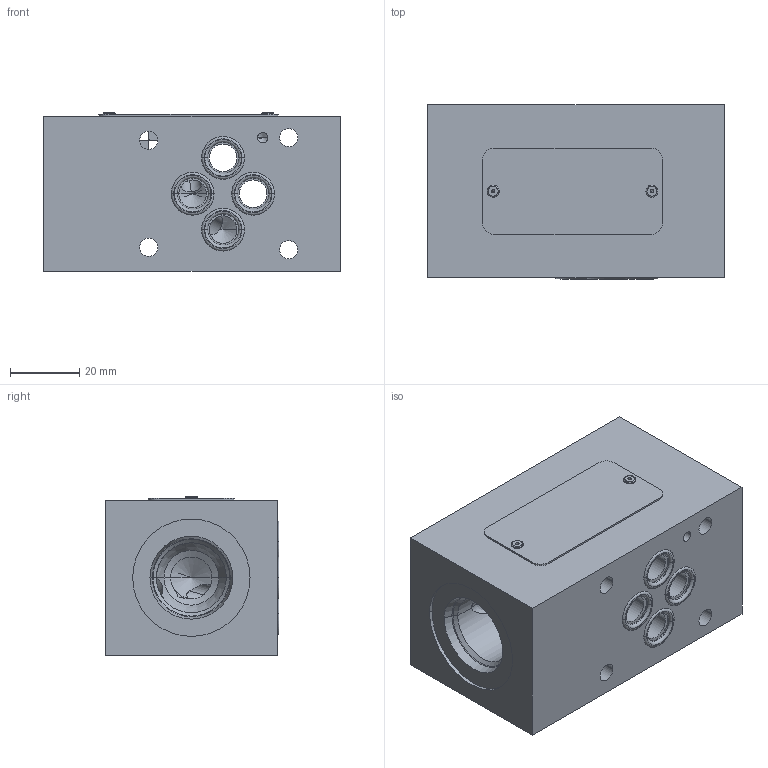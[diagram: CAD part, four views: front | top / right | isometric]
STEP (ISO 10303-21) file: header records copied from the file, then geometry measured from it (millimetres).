
FILE_DESCRIPTION((''),'2;1');
FILE_NAME('30453800_ASM','2023-10-12T',('l.soukupova'),(''),'PRO/ENGINEER BY PARAMETRIC TECHNOLOGY CORPORATION, 2015440','PRO/ENGINEER BY PARAMETRIC TECHNOLOGY CORPORATION, 2015440','');
FILE_SCHEMA(('AUTOMOTIVE_DESIGN { 1 0 10303 214 1 1 1 1 }'));
Length unit declared in the file: millimetre
Products named in the file (8): 30453901; RD_LABEL_25X52_159703; AF_1932_16485; ORAR00012_201524_AF8; ORAR00012_201524_AF9; ORAR00012_201524_AF10; ORAR00012_201524_AF11; 30453800_ASM
Assembly tree (8 placements, depth 2):
  30453800_ASM
    30453901
    RD_LABEL_25X52_159703
    AF_1932_16485  x2
    ORAR00012_201524_AF8
    ORAR00012_201524_AF9
    ORAR00012_201524_AF10
    ORAR00012_201524_AF11
Bounding box: 86 x 50.38 x 46 mm (x, y, z)
Volume: 168542.5 mm3; surface area: 35633.3 mm2
Topology: 8 solids, 11 shells, 192 faces, 578 edges, 474 vertices
Faces by surface type: cylinder 91, torus 36, plane 34, cone 31
Entity records: 10601 total; most frequent: CARTESIAN_POINT 1926, DIRECTION 1229, ORIENTED_EDGE 820, PRESENTATION_STYLE_ASSIGNMENT 703, STYLED_ITEM 595, CURVE_STYLE 586, AXIS2_PLACEMENT_3D 500, EDGE_CURVE 416
